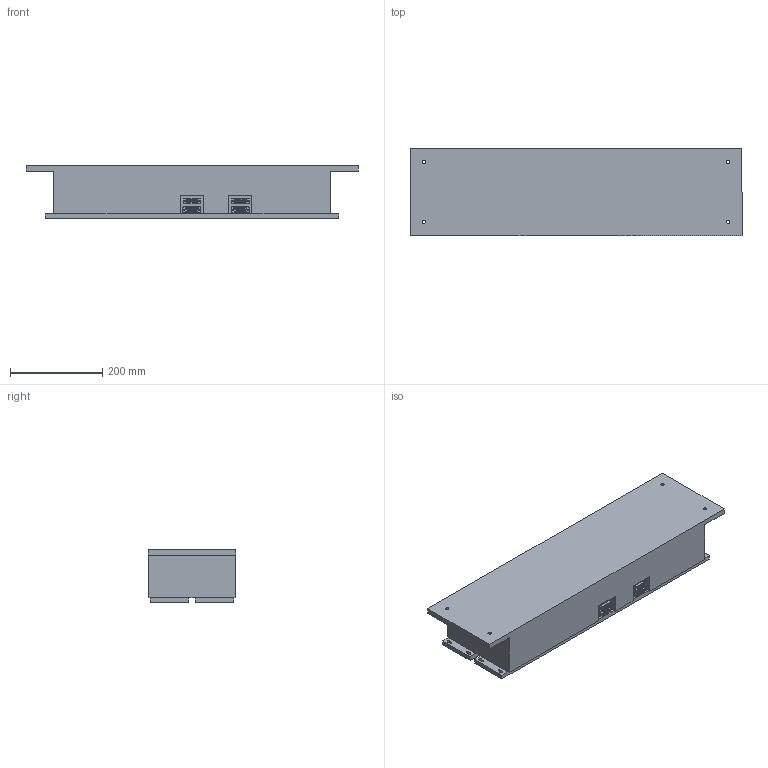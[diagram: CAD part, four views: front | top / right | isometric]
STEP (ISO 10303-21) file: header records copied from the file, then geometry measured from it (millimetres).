
FILE_DESCRIPTION((''),'2;1');
FILE_NAME('C:\Users\Filippo\Desktop\AVI 3D models and STP files\AVI-400M-LP\AVI400MLP.stp','2013-08-07T11:11:08',('Filippo'),(''),'Autodesk Inventor 2012','Autodesk Inventor 2012','');
FILE_SCHEMA(('AUTOMOTIVE_DESIGN { 1 0 10303 214 1 1 1 1 }'));
Products named in the file (4): Assembly of AVI400MLP; AVI-400M-LP; D sub 15 S female; D sub 15 P male
Assembly tree (5 placements, depth 2):
  Assembly of AVI400MLP
    AVI-400M-LP
    D sub 15 S female  x2
    D sub 15 P male  x2
Bounding box: 720 x 190 x 114.5 mm (x, y, z)
Volume: 13159996.2 mm3; surface area: 503651.5 mm2
Topology: 5 solids, 5 shells, 1324 faces, 3218 edges, 2060 vertices
Faces by surface type: plane 758, cylinder 432, torus 64, bspline 40, sphere 30
Full cylindrical faces by diameter (mm): 0.991 x60, 1.016 x60, 1.524 x60, 3.048 x8, 4.134 x8, 6.5 x8, 7 x4
Entity records: 22048 total; most frequent: CARTESIAN_POINT 5710, DIRECTION 3394, ORIENTED_EDGE 3044, EDGE_CURVE 1522, AXIS2_PLACEMENT_3D 1228, VERTEX_POINT 1044, EDGE_LOOP 946, VECTOR 938
